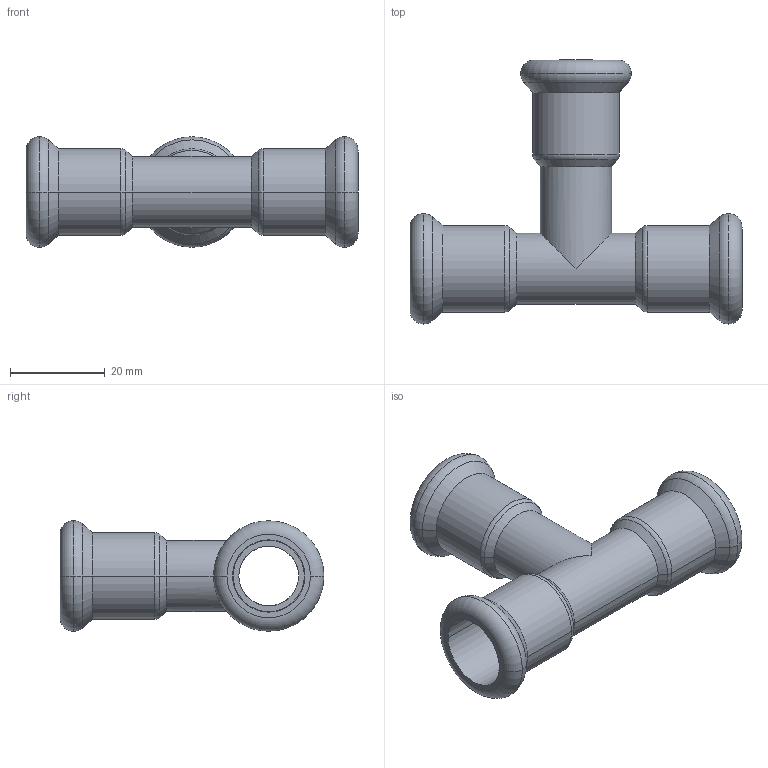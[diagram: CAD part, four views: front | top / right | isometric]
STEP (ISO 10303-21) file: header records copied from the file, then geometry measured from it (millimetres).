
FILE_DESCRIPTION(('CoCreate Modeling STEP Export'),'2;1');
FILE_NAME('C1414 15x15x15.stp','2014-11-11T16:54:27',(''),(''),'CoCreate Modeling STEP processor for AP214 (Solid Model)','CoCreate Modeling 17.00A 17-Jun-2010 (C) Parametric Technology GmbH','');
FILE_SCHEMA(('AUTOMOTIVE_DESIGN { 1 0 10303 214 1 1 1 1 }'));
Length unit declared in the file: millimetre
Products named in the file (2): C1414_15x15x15
Assembly tree (1 placements, depth 2):
  C1414_15x15x15
    C1414_15x15x15
Bounding box: 70 x 55.65 x 23.3 mm (x, y, z)
Volume: 9701.9 mm3; surface area: 11544.8 mm2
Topology: 1 solids, 1 shells, 65 faces, 141 edges, 83 vertices
Faces by surface type: cylinder 26, torus 18, cone 12, plane 9
Entity records: 1467 total; most frequent: ORIENTED_EDGE 282, DIRECTION 226, CARTESIAN_POINT 215, EDGE_CURVE 141, AXIS2_PLACEMENT_3D 94, VERTEX_POINT 83, EDGE_LOOP 74, FACE_OUTER_BOUND 65
